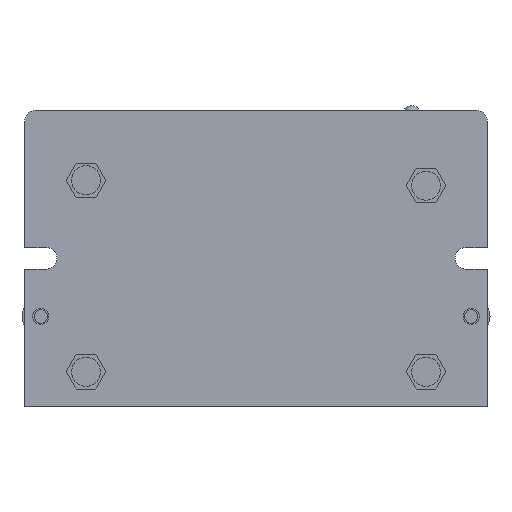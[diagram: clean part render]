
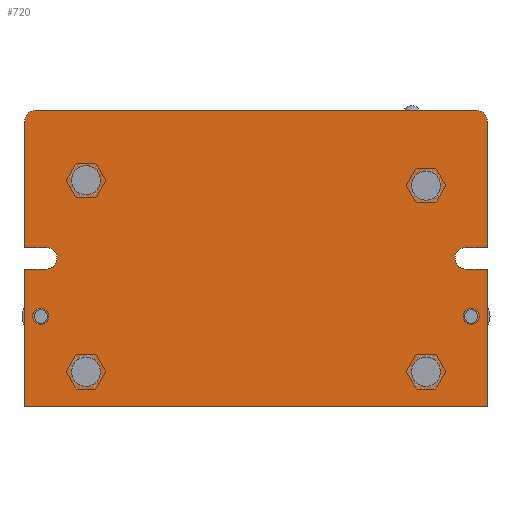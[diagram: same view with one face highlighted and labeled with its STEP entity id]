
A CAD part, front view. The second image highlights one B-rep face of the part: STEP entity #720.
In plain terms, the highlighted planar face has unit normal (0, -1, 0).
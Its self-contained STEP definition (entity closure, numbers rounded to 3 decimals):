
#1=CARTESIAN_POINT('',(41.,0.,25.5));
#2=DIRECTION('',(0.,-1.,0.));
#3=DIRECTION('',(1.,0.,0.));
#4=AXIS2_PLACEMENT_3D('',#1,#2,#3);
#6=DIRECTION('',(0.,0.,-1.));
#7=VECTOR('',#6,23.5);
#8=CARTESIAN_POINT('',(43.,0.,25.5));
#9=LINE('',#8,#7);
#10=DIRECTION('',(-1.,0.,0.));
#11=VECTOR('',#10,4.);
#12=CARTESIAN_POINT('',(43.,0.,2.));
#13=LINE('',#12,#11);
#14=CARTESIAN_POINT('',(39.,0.,0.));
#15=DIRECTION('',(0.,-1.,0.));
#16=DIRECTION('',(0.,0.,1.));
#17=AXIS2_PLACEMENT_3D('',#14,#15,#16);
#19=DIRECTION('',(1.,0.,0.));
#20=VECTOR('',#19,4.);
#21=CARTESIAN_POINT('',(39.,0.,-2.));
#22=LINE('',#21,#20);
#23=DIRECTION('',(0.,0.,-1.));
#24=VECTOR('',#23,25.5);
#25=CARTESIAN_POINT('',(43.,0.,-2.));
#26=LINE('',#25,#24);
#27=DIRECTION('',(-1.,0.,0.));
#28=VECTOR('',#27,86.);
#29=CARTESIAN_POINT('',(43.,0.,-27.5));
#30=LINE('',#29,#28);
#31=DIRECTION('',(0.,0.,1.));
#32=VECTOR('',#31,25.5);
#33=CARTESIAN_POINT('',(-43.,0.,-27.5));
#34=LINE('',#33,#32);
#35=DIRECTION('',(1.,0.,0.));
#36=VECTOR('',#35,4.);
#37=CARTESIAN_POINT('',(-43.,0.,-2.));
#38=LINE('',#37,#36);
#39=CARTESIAN_POINT('',(-39.,0.,0.));
#40=DIRECTION('',(0.,-1.,0.));
#41=DIRECTION('',(0.,0.,-1.));
#42=AXIS2_PLACEMENT_3D('',#39,#40,#41);
#44=DIRECTION('',(-1.,0.,0.));
#45=VECTOR('',#44,4.);
#46=CARTESIAN_POINT('',(-39.,0.,2.));
#47=LINE('',#46,#45);
#48=DIRECTION('',(0.,0.,1.));
#49=VECTOR('',#48,23.5);
#50=CARTESIAN_POINT('',(-43.,0.,2.));
#51=LINE('',#50,#49);
#52=CARTESIAN_POINT('',(-41.,0.,25.5));
#53=DIRECTION('',(0.,-1.,0.));
#54=DIRECTION('',(0.,0.,1.));
#55=AXIS2_PLACEMENT_3D('',#52,#53,#54);
#57=DIRECTION('',(1.,0.,0.));
#58=VECTOR('',#57,82.);
#59=CARTESIAN_POINT('',(-41.,0.,27.5));
#60=LINE('',#59,#58);
#61=CARTESIAN_POINT('',(31.6,0.,13.5));
#62=DIRECTION('',(0.,-1.,0.));
#63=DIRECTION('',(1.,0.,0.));
#64=AXIS2_PLACEMENT_3D('',#61,#62,#63);
#66=CARTESIAN_POINT('',(31.6,0.,13.5));
#67=DIRECTION('',(0.,-1.,0.));
#68=DIRECTION('',(-1.,0.,0.));
#69=AXIS2_PLACEMENT_3D('',#66,#67,#68);
#71=CARTESIAN_POINT('',(-31.6,0.,14.5));
#72=DIRECTION('',(0.,-1.,0.));
#73=DIRECTION('',(1.,0.,0.));
#74=AXIS2_PLACEMENT_3D('',#71,#72,#73);
#76=CARTESIAN_POINT('',(-31.6,0.,14.5));
#77=DIRECTION('',(0.,-1.,0.));
#78=DIRECTION('',(-1.,0.,0.));
#79=AXIS2_PLACEMENT_3D('',#76,#77,#78);
#81=CARTESIAN_POINT('',(31.6,0.,-21.1));
#82=DIRECTION('',(0.,-1.,0.));
#83=DIRECTION('',(1.,0.,0.));
#84=AXIS2_PLACEMENT_3D('',#81,#82,#83);
#86=CARTESIAN_POINT('',(31.6,0.,-21.1));
#87=DIRECTION('',(0.,-1.,0.));
#88=DIRECTION('',(-1.,0.,0.));
#89=AXIS2_PLACEMENT_3D('',#86,#87,#88);
#91=CARTESIAN_POINT('',(-31.6,0.,-21.1));
#92=DIRECTION('',(0.,-1.,0.));
#93=DIRECTION('',(1.,0.,0.));
#94=AXIS2_PLACEMENT_3D('',#91,#92,#93);
#96=CARTESIAN_POINT('',(-31.6,0.,-21.1));
#97=DIRECTION('',(0.,-1.,0.));
#98=DIRECTION('',(-1.,0.,0.));
#99=AXIS2_PLACEMENT_3D('',#96,#97,#98);
#101=CARTESIAN_POINT('',(-40.,0.,-10.8));
#102=DIRECTION('',(0.,-1.,0.));
#103=DIRECTION('',(-1.,0.,0.));
#104=AXIS2_PLACEMENT_3D('',#101,#102,#103);
#106=CARTESIAN_POINT('',(-40.,0.,-10.8));
#107=DIRECTION('',(0.,-1.,0.));
#108=DIRECTION('',(1.,0.,0.));
#109=AXIS2_PLACEMENT_3D('',#106,#107,#108);
#111=CARTESIAN_POINT('',(40.,0.,-10.8));
#112=DIRECTION('',(0.,-1.,0.));
#113=DIRECTION('',(-1.,0.,0.));
#114=AXIS2_PLACEMENT_3D('',#111,#112,#113);
#116=CARTESIAN_POINT('',(40.,0.,-10.8));
#117=DIRECTION('',(0.,-1.,0.));
#118=DIRECTION('',(1.,0.,0.));
#119=AXIS2_PLACEMENT_3D('',#116,#117,#118);
#497=CARTESIAN_POINT('',(43.,0.,-2.));
#498=CARTESIAN_POINT('',(43.,0.,-27.5));
#499=VERTEX_POINT('',#497);
#500=VERTEX_POINT('',#498);
#501=CARTESIAN_POINT('',(-43.,0.,-27.5));
#502=VERTEX_POINT('',#501);
#503=CARTESIAN_POINT('',(-43.,0.,-2.));
#504=VERTEX_POINT('',#503);
#505=CARTESIAN_POINT('',(-39.,0.,-2.));
#506=VERTEX_POINT('',#505);
#507=CARTESIAN_POINT('',(-39.,0.,2.));
#508=VERTEX_POINT('',#507);
#509=CARTESIAN_POINT('',(-43.,0.,2.));
#510=VERTEX_POINT('',#509);
#511=CARTESIAN_POINT('',(43.,0.,2.));
#512=CARTESIAN_POINT('',(39.,0.,2.));
#513=VERTEX_POINT('',#511);
#514=VERTEX_POINT('',#512);
#515=CARTESIAN_POINT('',(39.,0.,-2.));
#516=VERTEX_POINT('',#515);
#585=CARTESIAN_POINT('',(43.,0.,25.5));
#586=CARTESIAN_POINT('',(41.,0.,27.5));
#587=VERTEX_POINT('',#585);
#588=VERTEX_POINT('',#586);
#593=CARTESIAN_POINT('',(-41.,0.,27.5));
#594=CARTESIAN_POINT('',(-43.,0.,25.5));
#595=VERTEX_POINT('',#593);
#596=VERTEX_POINT('',#594);
#601=CARTESIAN_POINT('',(34.3,0.,13.5));
#602=CARTESIAN_POINT('',(28.9,0.,13.5));
#603=VERTEX_POINT('',#601);
#604=VERTEX_POINT('',#602);
#609=CARTESIAN_POINT('',(-28.9,0.,14.5));
#610=CARTESIAN_POINT('',(-34.3,0.,14.5));
#611=VERTEX_POINT('',#609);
#612=VERTEX_POINT('',#610);
#617=CARTESIAN_POINT('',(34.3,0.,-21.1));
#618=CARTESIAN_POINT('',(28.9,0.,-21.1));
#619=VERTEX_POINT('',#617);
#620=VERTEX_POINT('',#618);
#625=CARTESIAN_POINT('',(-28.9,0.,-21.1));
#626=CARTESIAN_POINT('',(-34.3,0.,-21.1));
#627=VERTEX_POINT('',#625);
#628=VERTEX_POINT('',#626);
#633=CARTESIAN_POINT('',(-41.25,0.,-10.8));
#634=CARTESIAN_POINT('',(-38.75,0.,-10.8));
#635=VERTEX_POINT('',#633);
#636=VERTEX_POINT('',#634);
#637=CARTESIAN_POINT('',(38.75,0.,-10.8));
#638=CARTESIAN_POINT('',(41.25,0.,-10.8));
#639=VERTEX_POINT('',#637);
#640=VERTEX_POINT('',#638);
#649=CARTESIAN_POINT('',(0.,0.,0.));
#650=DIRECTION('',(0.,1.,0.));
#651=DIRECTION('',(1.,0.,0.));
#652=AXIS2_PLACEMENT_3D('',#649,#650,#651);
#653=PLANE('',#652);
#655=ORIENTED_EDGE('',*,*,#654,.F.);
#657=ORIENTED_EDGE('',*,*,#656,.T.);
#659=ORIENTED_EDGE('',*,*,#658,.T.);
#661=ORIENTED_EDGE('',*,*,#660,.T.);
#663=ORIENTED_EDGE('',*,*,#662,.T.);
#665=ORIENTED_EDGE('',*,*,#664,.T.);
#667=ORIENTED_EDGE('',*,*,#666,.T.);
#669=ORIENTED_EDGE('',*,*,#668,.T.);
#671=ORIENTED_EDGE('',*,*,#670,.T.);
#673=ORIENTED_EDGE('',*,*,#672,.T.);
#675=ORIENTED_EDGE('',*,*,#674,.T.);
#677=ORIENTED_EDGE('',*,*,#676,.T.);
#679=ORIENTED_EDGE('',*,*,#678,.F.);
#681=ORIENTED_EDGE('',*,*,#680,.T.);
#682=EDGE_LOOP('',(#655,#657,#659,#661,#663,#665,#667,#669,#671,#673,#675,#677,
#679,#681));
#683=FACE_OUTER_BOUND('',#682,.F.);
#685=ORIENTED_EDGE('',*,*,#684,.T.);
#687=ORIENTED_EDGE('',*,*,#686,.T.);
#688=EDGE_LOOP('',(#685,#687));
#689=FACE_BOUND('',#688,.F.);
#691=ORIENTED_EDGE('',*,*,#690,.T.);
#693=ORIENTED_EDGE('',*,*,#692,.T.);
#694=EDGE_LOOP('',(#691,#693));
#695=FACE_BOUND('',#694,.F.);
#697=ORIENTED_EDGE('',*,*,#696,.T.);
#699=ORIENTED_EDGE('',*,*,#698,.T.);
#700=EDGE_LOOP('',(#697,#699));
#701=FACE_BOUND('',#700,.F.);
#703=ORIENTED_EDGE('',*,*,#702,.T.);
#705=ORIENTED_EDGE('',*,*,#704,.T.);
#706=EDGE_LOOP('',(#703,#705));
#707=FACE_BOUND('',#706,.F.);
#709=ORIENTED_EDGE('',*,*,#708,.T.);
#711=ORIENTED_EDGE('',*,*,#710,.T.);
#712=EDGE_LOOP('',(#709,#711));
#713=FACE_BOUND('',#712,.F.);
#715=ORIENTED_EDGE('',*,*,#714,.T.);
#717=ORIENTED_EDGE('',*,*,#716,.T.);
#718=EDGE_LOOP('',(#715,#717));
#719=FACE_BOUND('',#718,.F.);
#720=ADVANCED_FACE('',(#683,#689,#695,#701,#707,#713,#719),#653,.F.);
#5=CIRCLE('',#4,2.);
#18=CIRCLE('',#17,2.);
#43=CIRCLE('',#42,2.);
#56=CIRCLE('',#55,2.);
#65=CIRCLE('',#64,2.7);
#70=CIRCLE('',#69,2.7);
#75=CIRCLE('',#74,2.7);
#80=CIRCLE('',#79,2.7);
#85=CIRCLE('',#84,2.7);
#90=CIRCLE('',#89,2.7);
#95=CIRCLE('',#94,2.7);
#100=CIRCLE('',#99,2.7);
#105=CIRCLE('',#104,1.25);
#110=CIRCLE('',#109,1.25);
#115=CIRCLE('',#114,1.25);
#120=CIRCLE('',#119,1.25);
#654=EDGE_CURVE('',#587,#588,#5,.T.);
#656=EDGE_CURVE('',#587,#513,#9,.T.);
#658=EDGE_CURVE('',#513,#514,#13,.T.);
#660=EDGE_CURVE('',#514,#516,#18,.T.);
#662=EDGE_CURVE('',#516,#499,#22,.T.);
#664=EDGE_CURVE('',#499,#500,#26,.T.);
#666=EDGE_CURVE('',#500,#502,#30,.T.);
#668=EDGE_CURVE('',#502,#504,#34,.T.);
#670=EDGE_CURVE('',#504,#506,#38,.T.);
#672=EDGE_CURVE('',#506,#508,#43,.T.);
#674=EDGE_CURVE('',#508,#510,#47,.T.);
#676=EDGE_CURVE('',#510,#596,#51,.T.);
#678=EDGE_CURVE('',#595,#596,#56,.T.);
#680=EDGE_CURVE('',#595,#588,#60,.T.);
#684=EDGE_CURVE('',#603,#604,#65,.T.);
#686=EDGE_CURVE('',#604,#603,#70,.T.);
#690=EDGE_CURVE('',#611,#612,#75,.T.);
#692=EDGE_CURVE('',#612,#611,#80,.T.);
#696=EDGE_CURVE('',#619,#620,#85,.T.);
#698=EDGE_CURVE('',#620,#619,#90,.T.);
#702=EDGE_CURVE('',#627,#628,#95,.T.);
#704=EDGE_CURVE('',#628,#627,#100,.T.);
#708=EDGE_CURVE('',#635,#636,#105,.T.);
#710=EDGE_CURVE('',#636,#635,#110,.T.);
#714=EDGE_CURVE('',#639,#640,#115,.T.);
#716=EDGE_CURVE('',#640,#639,#120,.T.);
